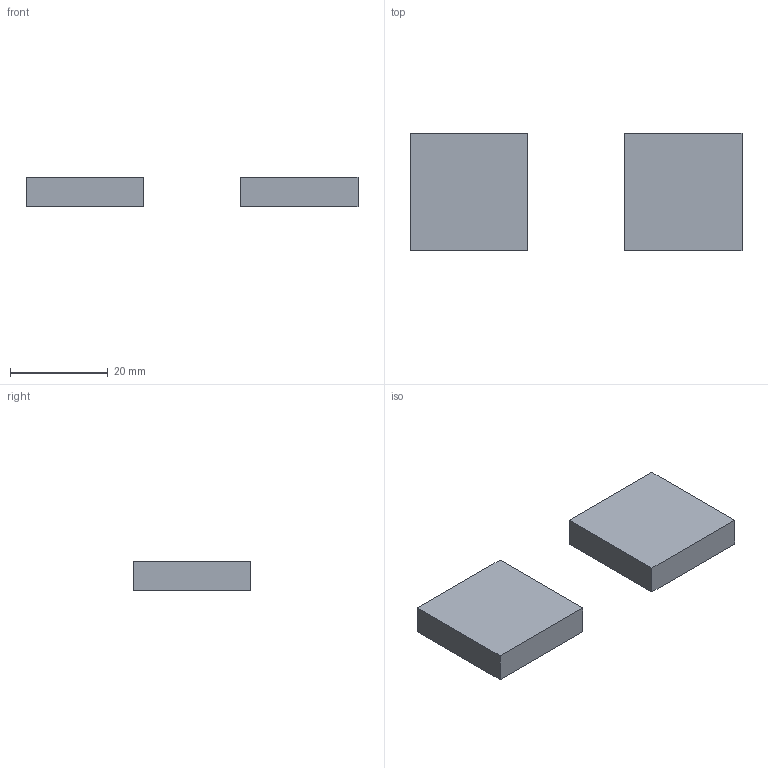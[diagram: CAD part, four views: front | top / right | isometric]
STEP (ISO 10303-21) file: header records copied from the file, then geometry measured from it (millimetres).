
FILE_DESCRIPTION(('Open CASCADE Model'),'2;1');
FILE_NAME('detectors','2026-08-12T02:42:45',('Author'),('Open CASCADE'), 'Open CASCADE STEP processor 7.9','build123d','Unknown');
FILE_SCHEMA(('AUTOMOTIVE_DESIGN { 1 0 10303 214 1 1 1 1 }'));
Length unit declared in the file: millimetre
Products named in the file (3): detectors; COMPOUND
Assembly tree (2 placements, depth 2):
  detectors
    COMPOUND
    COMPOUND
Bounding box: 68 x 24 x 6 mm (x, y, z)
Volume: 6912 mm3; surface area: 3456 mm2
Topology: 2 solids, 2 shells, 12 faces, 24 edges, 16 vertices
Faces by surface type: plane 12
Entity records: 664 total; most frequent: CARTESIAN_POINT 103, DIRECTION 102, LINE 72, VECTOR 72, ORIENTED_EDGE 48, PCURVE 48, DEFINITIONAL_REPRESENTATION 48, EDGE_CURVE 24
